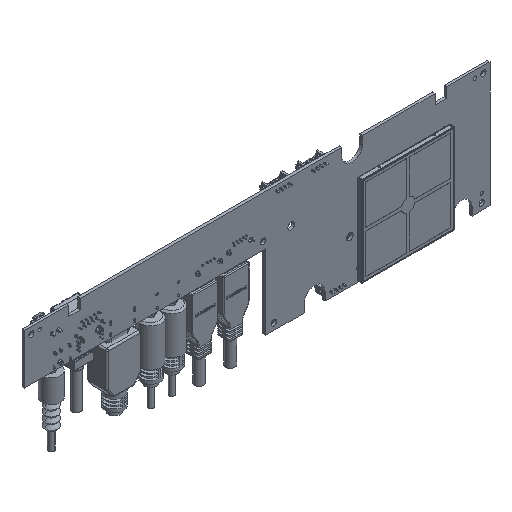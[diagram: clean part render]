
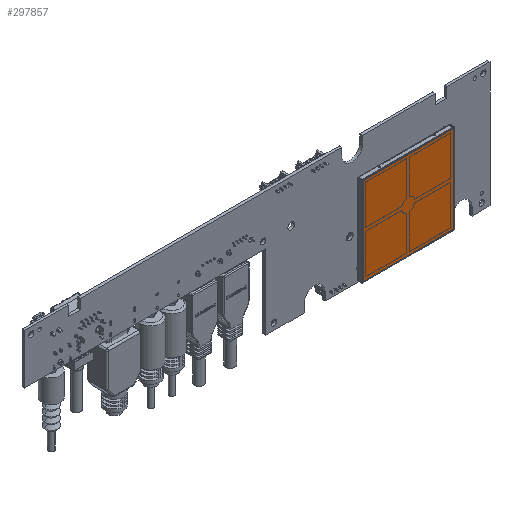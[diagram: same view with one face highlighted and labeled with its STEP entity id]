
A CAD part, isometric view. The second image highlights one B-rep face of the part: STEP entity #297857.
In plain terms, the highlighted planar face has unit normal (0, -1, 0) as drawn and (0, 1, 0) by its records, which use the part's own axes.
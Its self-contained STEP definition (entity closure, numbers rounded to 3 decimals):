
#297038=DIRECTION('',(1.,0.,0.));
#297039=VECTOR('',#297038,54.89);
#297040=CARTESIAN_POINT('',(-27.445,3.4,-26.505));
#297041=LINE('',#297040,#297039);
#297076=DIRECTION('',(0.,0.,1.));
#297077=VECTOR('',#297076,53.01);
#297078=CARTESIAN_POINT('',(27.445,3.4,-26.505));
#297079=LINE('',#297078,#297077);
#297234=DIRECTION('',(-1.,0.,0.));
#297235=VECTOR('',#297234,54.89);
#297236=CARTESIAN_POINT('',(27.445,3.4,26.505));
#297237=LINE('',#297236,#297235);
#297378=DIRECTION('',(0.,0.,-1.));
#297379=VECTOR('',#297378,53.01);
#297380=CARTESIAN_POINT('',(-27.445,3.4,26.505));
#297381=LINE('',#297380,#297379);
#297576=CARTESIAN_POINT('',(-27.445,3.4,26.505));
#297577=CARTESIAN_POINT('',(-27.445,3.4,-26.505));
#297578=VERTEX_POINT('',#297576);
#297579=VERTEX_POINT('',#297577);
#297608=CARTESIAN_POINT('',(27.445,3.4,-26.505));
#297609=CARTESIAN_POINT('',(27.445,3.4,26.505));
#297610=VERTEX_POINT('',#297608);
#297611=VERTEX_POINT('',#297609);
#297843=CARTESIAN_POINT('',(0.,3.4,0.));
#297844=DIRECTION('',(0.,1.,0.));
#297845=DIRECTION('',(1.,0.,0.));
#297846=AXIS2_PLACEMENT_3D('',#297843,#297844,#297845);
#297847=PLANE('',#297846);
#297848=ORIENTED_EDGE('',*,*,#297833,.T.);
#297850=ORIENTED_EDGE('',*,*,#297849,.T.);
#297852=ORIENTED_EDGE('',*,*,#297851,.T.);
#297854=ORIENTED_EDGE('',*,*,#297853,.T.);
#297855=EDGE_LOOP('',(#297848,#297850,#297852,#297854));
#297856=FACE_OUTER_BOUND('',#297855,.F.);
#297857=ADVANCED_FACE('',(#297856),#297847,.T.);
#297833=EDGE_CURVE('',#297579,#297610,#297041,.T.);
#297849=EDGE_CURVE('',#297610,#297611,#297079,.T.);
#297851=EDGE_CURVE('',#297611,#297578,#297237,.T.);
#297853=EDGE_CURVE('',#297578,#297579,#297381,.T.);
